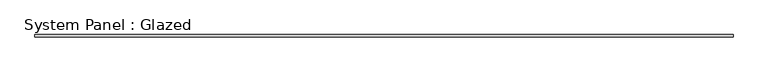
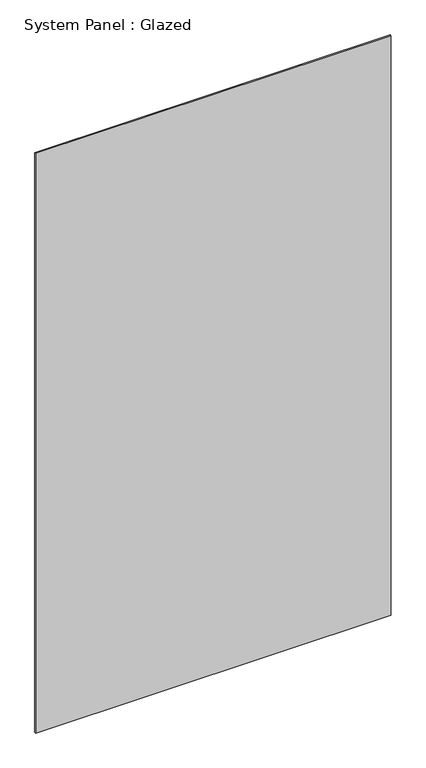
"""IFC4 building model written with IfcOpenShell, lengths in millimetres: plate geometry, System Panel : Glazed."""

import ifcopenshell
import ifcopenshell.guid

model = None  # the IFC model being written
_history = None  # IfcOwnerHistory: only IFC2X3 demands one
_inside = {}  # id of a spatial element -> (the spatial element, [elements in it])
_under = {}  # id of a project, library or spatial element -> (it, [spatial elements below it])
_declared = {}  # id of a project -> (the project, [libraries it declares])
_typed = {}  # id of a type object -> (the type object, [elements of that type])
_made_of = {}  # id of a material, layer set ... -> (it, [elements and type objects made of it])


def new_model(schema):
    """Start an empty IFC model of exactly this schema.

    Asked for "IFC4X3", IfcOpenShell would pick the latest addendum, in which some entities
    have other attributes; the version numbers below select the first issue.
    IFC2X3 requires an IfcOwnerHistory on every rooted entity: one is made here for all.
    """
    global model, _history
    if schema == "IFC4X3":
        model = ifcopenshell.file(schema_version=(4, 3, 0, 0))
    else:
        model = ifcopenshell.file(schema=schema)
    _inside.clear()
    _under.clear()
    _declared.clear()
    _typed.clear()
    _made_of.clear()
    _history = None
    if model.schema == "IFC2X3":
        org = make("IfcOrganization", Name="unknown")
        user = make(
            "IfcPersonAndOrganization",
            ThePerson=make("IfcPerson", FamilyName="unknown"),
            TheOrganization=org,
        )
        app = make(
            "IfcApplication",
            ApplicationDeveloper=org,
            Version="unknown",
            ApplicationFullName="unknown",
            ApplicationIdentifier="unknown",
        )
        _history = make(
            "IfcOwnerHistory",
            OwningUser=user,
            OwningApplication=app,
            ChangeAction="ADDED",
            CreationDate=0,
        )
    return model


def make(cls, **values):
    """One entity of the class cls with the attributes given. An attribute that is None is left unset."""
    return model.create_entity(
        cls, **{name: value for name, value in values.items() if value is not None}
    )


def rooted(cls, **values):
    """An entity with a GlobalId (a new one), such as an element, a storey or a relation."""
    return make(cls, GlobalId=ifcopenshell.guid.new(), OwnerHistory=_history, **values)


def si_unit(unit_type, name, prefix=None):
    """IfcSIUnit, for example si_unit("LENGTHUNIT", "METRE", prefix="MILLI")."""
    return make("IfcSIUnit", UnitType=unit_type, Prefix=prefix, Name=name)


def assignment(units):
    """IfcUnitAssignment: the units of a project."""
    return None if units is None else make("IfcUnitAssignment", Units=units)


def point(xyz):
    """IfcCartesianPoint."""
    return None if xyz is None else make("IfcCartesianPoint", Coordinates=xyz)


def direction(xyz):
    """IfcDirection."""
    return None if xyz is None else make("IfcDirection", DirectionRatios=xyz)


def frame(location, z_axis=None, x_axis=None):
    """IfcAxis2Placement3D, a coordinate frame: its origin and axes. An axis left out is left unset."""
    return make(
        "IfcAxis2Placement3D",
        Location=point(location),
        Axis=direction(z_axis),
        RefDirection=direction(x_axis),
    )


def origin():
    """The frame at (0, 0, 0) with its axes left unset."""
    return frame((0.0, 0.0, 0.0))


def origin_with_axes():
    """The frame at (0, 0, 0) with the z axis (0, 0, 1) and the x axis (1, 0, 0) written out."""
    return frame((0.0, 0.0, 0.0), z_axis=(0.0, 0.0, 1.0), x_axis=(1.0, 0.0, 0.0))


def place(relative_to, where):
    """IfcLocalPlacement: puts the frame where relative to a parent placement (None: the world)."""
    return make(
        "IfcLocalPlacement", PlacementRelTo=relative_to, RelativePlacement=where
    )


def context(
    kind, dimensions, precision=None, world=None, true_north=None, identifier=None
):
    """IfcGeometricRepresentationContext, for example the 3D "Model" context."""
    return make(
        "IfcGeometricRepresentationContext",
        ContextIdentifier=identifier,
        ContextType=kind,
        CoordinateSpaceDimension=dimensions,
        Precision=precision,
        WorldCoordinateSystem=world,
        TrueNorth=true_north,
    )


def project(units=None, contexts=None):
    """IfcProject with its units and contexts."""
    return rooted(
        "IfcProject",
        Name="project",
        RepresentationContexts=contexts,
        UnitsInContext=assignment(units),
    )


def spatial(cls, under=None, at=None, **own):
    """A site, building, storey or space (cls), placed at a placement, below another one or the project."""
    s = rooted(cls, ObjectPlacement=at, **own)
    if under is not None:
        _under.setdefault(under.id(), (under, []))[1].append(s)
    return s


def polyline(points):
    """IfcPolyline through the points."""
    return make("IfcPolyline", Points=[point(p) for p in points])


def outline(outer, holes=None, kind="AREA"):
    """IfcArbitraryClosedProfileDef: a profile drawn as a closed curve; with holes, ...WithVoids."""
    if holes is None:
        return make("IfcArbitraryClosedProfileDef", ProfileType=kind, OuterCurve=outer)
    return make(
        "IfcArbitraryProfileDefWithVoids",
        ProfileType=kind,
        OuterCurve=outer,
        InnerCurves=holes,
    )


def extrude(swept, where, along, depth):
    """IfcExtrudedAreaSolid: the profile swept, set in the frame where, extruded along a direction by depth."""
    return make(
        "IfcExtrudedAreaSolid",
        SweptArea=swept,
        Position=where,
        ExtrudedDirection=direction(along),
        Depth=depth,
    )


def shape(context_of_items, identifier, shape_type, items):
    """IfcShapeRepresentation: the items that make up one representation, for example the "Body"."""
    return make(
        "IfcShapeRepresentation",
        ContextOfItems=context_of_items,
        RepresentationIdentifier=identifier,
        RepresentationType=shape_type,
        Items=items,
    )


def source(mapping_origin, context_of_items, identifier, shape_type, items):
    """IfcRepresentationMap: a shape defined once, which mapped items show again and again."""
    return make(
        "IfcRepresentationMap",
        MappingOrigin=mapping_origin,
        MappedRepresentation=shape(context_of_items, identifier, shape_type, items),
    )


def transform(
    local_origin,
    x_axis=None,
    y_axis=None,
    z_axis=None,
    scale=None,
    scale2=None,
    scale3=None,
    uniform=True,
):
    """IfcCartesianTransformationOperator3D, or its non-uniform kind. x_axis, y_axis, z_axis: its Axis1, 2, 3."""
    if uniform:
        return make(
            "IfcCartesianTransformationOperator3D",
            Axis1=direction(x_axis),
            Axis2=direction(y_axis),
            LocalOrigin=point(local_origin),
            Scale=scale,
            Axis3=direction(z_axis),
        )
    return make(
        "IfcCartesianTransformationOperator3DnonUniform",
        Axis1=direction(x_axis),
        Axis2=direction(y_axis),
        LocalOrigin=point(local_origin),
        Scale=scale,
        Axis3=direction(z_axis),
        Scale2=scale2,
        Scale3=scale3,
    )


def mapped(mapping_source, mapping_target):
    """IfcMappedItem: shows the shape of a source again, moved by a transform."""
    return make(
        "IfcMappedItem", MappingSource=mapping_source, MappingTarget=mapping_target
    )


def made_of(thing, what):
    """Note that an element or type object is made of a material, layer set ...; save() writes the relation."""
    if what is not None:
        _made_of.setdefault(what.id(), (what, []))[1].append(thing)
    return thing


def element(
    cls,
    number,
    at=None,
    inside=None,
    cuts=None,
    type_object=None,
    material=None,
    context=None,
    identifier="Body",
    shape_type=None,
    held_by="IfcProductDefinitionShape",
    body=None,
    shapes=None,
    **own,
):
    """One element of the class cls, such as IfcWall. Its Tag is "e" and its number.

    at: its placement. inside: the storey or other place that contains it. cuts: it is an
    opening in that element (IfcRelVoidsElement). A single representation is given by context,
    identifier, shape_type and body (its items); several are given by shapes. held_by: the class
    of the entity that holds the representations. save() writes the other relations.
    """
    e = rooted(cls, Tag="e%d" % number, ObjectPlacement=at, **own)
    if body is not None:
        shapes = [shape(context, identifier, shape_type, body)]
    if shapes is not None:
        e.Representation = make(held_by, Representations=shapes)
    if inside is not None:
        _inside.setdefault(inside.id(), (inside, []))[1].append(e)
    if cuts is not None:
        rooted(
            "IfcRelVoidsElement", RelatingBuildingElement=cuts, RelatedOpeningElement=e
        )
    if type_object is not None:
        _typed.setdefault(type_object.id(), (type_object, []))[1].append(e)
    return made_of(e, material)


def aggregate(whole, parts):
    """IfcRelAggregates: a whole, such as a stair, and the parts it consists of."""
    return rooted("IfcRelAggregates", RelatingObject=whole, RelatedObjects=parts)


def save(model, path):
    """Write the relations noted so far, then the file.

    IfcRelAggregates (storeys below a building ...), IfcRelContainedInSpatialStructure (elements
    in a storey), IfcRelDefinesByType, IfcRelAssociatesMaterial and IfcRelDeclares: one each for
    every whole, place, type object, material and project.
    """
    for whole, parts in _under.values():
        aggregate(whole, parts)
    for where, things in _inside.values():
        rooted(
            "IfcRelContainedInSpatialStructure",
            RelatedElements=things,
            RelatingStructure=where,
        )
    for kind, things in _typed.values():
        rooted("IfcRelDefinesByType", RelatedObjects=things, RelatingType=kind)
    for what, things in _made_of.values():
        rooted("IfcRelAssociatesMaterial", RelatedObjects=things, RelatingMaterial=what)
    for by, libraries in _declared.values():
        rooted("IfcRelDeclares", RelatingContext=by, RelatedDefinitions=libraries)
    model.write(path)


def system_panel_glazed_4d811192(model_context):
    return source(origin(), model_context, "Body", "SweptSolid", [
        extrude(outline(polyline([(3597.2001938, -49.5), (-3597.2001938, -49.5), (-3597.2001938, -24.5), (3597.2001938, -24.5), (3597.2001938, -49.5)])), origin_with_axes(), (0.0, 0.0, 1.0), 12400.0),
    ])


if __name__ == "__main__":
    model = new_model("IFC4")
    model_context = context("Model", 3, world=origin())
    ifc_project = project(units=[si_unit("LENGTHUNIT", "METRE", prefix="MILLI")], contexts=[model_context])
    site = spatial("IfcSite", under=ifc_project)
    building = spatial("IfcBuilding", under=site)
    placement = place(None, origin())
    system_panel_glazed_shape = system_panel_glazed_4d811192(model_context)
    element("IfcPlate", 1, ObjectType="System Panel : Glazed", at=placement, inside=building, context=model_context, shape_type="MappedRepresentation", body=[
        mapped(system_panel_glazed_shape, transform((0.0, 0.0, 0.0), x_axis=(1.0, 0.0, 0.0), y_axis=(0.0, 1.0, 0.0), z_axis=(0.0, 0.0, 1.0))),
    ])
    save(model, "model.ifc")
